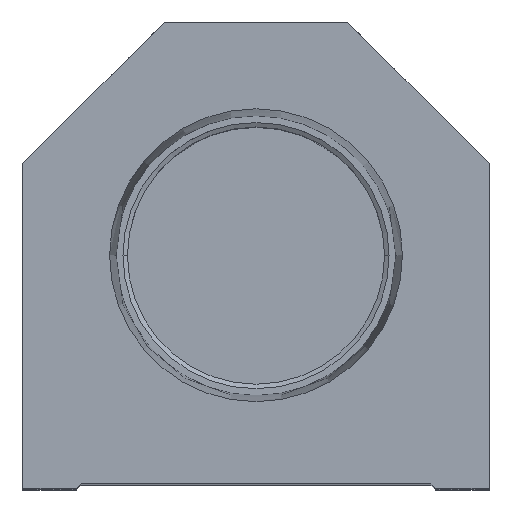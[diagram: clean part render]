
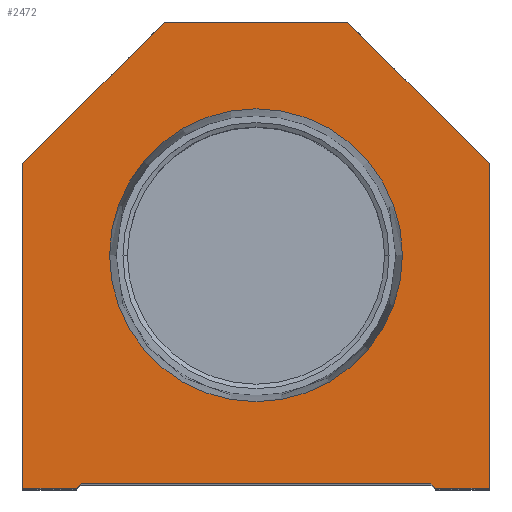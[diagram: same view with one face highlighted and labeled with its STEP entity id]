
A CAD part, top view. The second image highlights one B-rep face of the part: STEP entity #2472.
In plain terms, the highlighted planar face has unit normal (0, 0, 1).
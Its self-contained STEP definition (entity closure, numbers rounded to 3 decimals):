
#202 = FACE_OUTER_BOUND ( 'NONE', #11082, .T. ) ;
#537 = ORIENTED_EDGE ( 'NONE', *, *, #11326, .T. ) ;
#617 = ORIENTED_EDGE ( 'NONE', *, *, #7357, .T. ) ;
#771 = CARTESIAN_POINT ( 'NONE',  ( -15.947, 25.4, 0. ) ) ;
#844 = CARTESIAN_POINT ( 'NONE',  ( 10., 50.8, 0. ) ) ;
#1178 = VERTEX_POINT ( 'NONE', #1250 ) ;
#1195 = VERTEX_POINT ( 'NONE', #11446 ) ;
#1250 = CARTESIAN_POINT ( 'NONE',  ( 19.05, 0.5, 0. ) ) ;
#1750 = ORIENTED_EDGE ( 'NONE', *, *, #3516, .T. ) ;
#1765 = DIRECTION ( 'NONE',  ( 1., 0., 0. ) ) ;
#1912 = ORIENTED_EDGE ( 'NONE', *, *, #12132, .T. ) ;
#2002 = VECTOR ( 'NONE', #4067, 1000. ) ;
#2281 = CARTESIAN_POINT ( 'NONE',  ( -25.4, 0., 0. ) ) ;
#2472 = ADVANCED_FACE ( 'NONE', ( #13307, #202 ), #15591, .T. ) ;
#2619 = EDGE_CURVE ( 'NONE', #5529, #15778, #9289, .T. ) ;
#2660 = CIRCLE ( 'NONE', #11530, 15.947 ) ;
#2803 = VECTOR ( 'NONE', #8864, 1000. ) ;
#3113 = VERTEX_POINT ( 'NONE', #771 ) ;
#3267 = VECTOR ( 'NONE', #8295, 1000. ) ;
#3516 = EDGE_CURVE ( 'NONE', #3942, #8656, #10362, .T. ) ;
#3675 = LINE ( 'NONE', #6121, #13504 ) ;
#3888 = CARTESIAN_POINT ( 'NONE',  ( -19.05, 0.5, 0. ) ) ;
#3942 = VERTEX_POINT ( 'NONE', #844 ) ;
#3946 = DIRECTION ( 'NONE',  ( -1., 0., 0. ) ) ;
#4067 = DIRECTION ( 'NONE',  ( 1., 0., 0. ) ) ;
#4075 = ORIENTED_EDGE ( 'NONE', *, *, #13697, .T. ) ;
#4147 = VECTOR ( 'NONE', #11717, 1000. ) ;
#4229 = VERTEX_POINT ( 'NONE', #4802 ) ;
#4389 = CARTESIAN_POINT ( 'NONE',  ( 15.947, 25.4, 0. ) ) ;
#4426 = CARTESIAN_POINT ( 'NONE',  ( 25.4, 0., 0. ) ) ;
#4527 = LINE ( 'NONE', #16302, #8889 ) ;
#4586 = CARTESIAN_POINT ( 'NONE',  ( -19.05, 0.5, 0. ) ) ;
#4749 = EDGE_CURVE ( 'NONE', #3113, #15646, #2660, .T. ) ;
#4802 = CARTESIAN_POINT ( 'NONE',  ( 25.4, 0., 0. ) ) ;
#4911 = AXIS2_PLACEMENT_3D ( 'NONE', #5155, #7954, #4994 ) ;
#4939 = ORIENTED_EDGE ( 'NONE', *, *, #5189, .T. ) ;
#4994 = DIRECTION ( 'NONE',  ( 1., 0., 0. ) ) ;
#5141 = ORIENTED_EDGE ( 'NONE', *, *, #4749, .F. ) ;
#5155 = CARTESIAN_POINT ( 'NONE',  ( 0., 25.4, 0. ) ) ;
#5189 = EDGE_CURVE ( 'NONE', #8656, #1195, #4527, .T. ) ;
#5529 = VERTEX_POINT ( 'NONE', #15625 ) ;
#5567 = ORIENTED_EDGE ( 'NONE', *, *, #13013, .T. ) ;
#5672 = CARTESIAN_POINT ( 'NONE',  ( 0., 25.4, 0. ) ) ;
#5830 = ORIENTED_EDGE ( 'NONE', *, *, #7745, .T. ) ;
#5835 = ORIENTED_EDGE ( 'NONE', *, *, #2619, .T. ) ;
#5860 = LINE ( 'NONE', #4426, #11143 ) ;
#6047 = DIRECTION ( 'NONE',  ( 0., 1., 0. ) ) ;
#6121 = CARTESIAN_POINT ( 'NONE',  ( -19.05, 0., 0. ) ) ;
#6415 = CARTESIAN_POINT ( 'NONE',  ( 25.4, 35.4, 0. ) ) ;
#7357 = EDGE_CURVE ( 'NONE', #4229, #10702, #5860, .T. ) ;
#7555 = VECTOR ( 'NONE', #11799, 1000. ) ;
#7745 = EDGE_CURVE ( 'NONE', #10702, #3942, #8198, .T. ) ;
#7751 = CARTESIAN_POINT ( 'NONE',  ( -10., 50.8, 0. ) ) ;
#7954 = DIRECTION ( 'NONE',  ( 0., 0., 1. ) ) ;
#7968 = LINE ( 'NONE', #10149, #2002 ) ;
#8198 = LINE ( 'NONE', #13285, #4147 ) ;
#8295 = DIRECTION ( 'NONE',  ( 0.707, -0.707, 0. ) ) ;
#8428 = DIRECTION ( 'NONE',  ( -0.707, -0.707, 0. ) ) ;
#8656 = VERTEX_POINT ( 'NONE', #7751 ) ;
#8764 = CARTESIAN_POINT ( 'NONE',  ( 10., 50.8, 0. ) ) ;
#8864 = DIRECTION ( 'NONE',  ( 0., -1., 0. ) ) ;
#8889 = VECTOR ( 'NONE', #8428, 1000. ) ;
#8935 = VERTEX_POINT ( 'NONE', #13924 ) ;
#9289 = LINE ( 'NONE', #9356, #7555 ) ;
#9356 = CARTESIAN_POINT ( 'NONE',  ( -9.775, 9.775, 0. ) ) ;
#9679 = AXIS2_PLACEMENT_3D ( 'NONE', #14567, #13227, #1765 ) ;
#9727 = DIRECTION ( 'NONE',  ( 1., 0., 0. ) ) ;
#10149 = CARTESIAN_POINT ( 'NONE',  ( 19.05, 0., 0. ) ) ;
#10247 = DIRECTION ( 'NONE',  ( 1., 0., 0. ) ) ;
#10362 = LINE ( 'NONE', #8764, #14186 ) ;
#10702 = VERTEX_POINT ( 'NONE', #6415 ) ;
#10794 = DIRECTION ( 'NONE',  ( 0., 0., 1. ) ) ;
#11082 = EDGE_LOOP ( 'NONE', ( #537, #5835, #1912, #4075, #5567, #617, #5830, #1750, #4939, #12423 ) ) ;
#11143 = VECTOR ( 'NONE', #6047, 1000. ) ;
#11326 = EDGE_CURVE ( 'NONE', #14248, #5529, #3675, .T. ) ;
#11446 = CARTESIAN_POINT ( 'NONE',  ( -25.4, 35.4, 0. ) ) ;
#11530 = AXIS2_PLACEMENT_3D ( 'NONE', #5672, #10794, #14659 ) ;
#11660 = VECTOR ( 'NONE', #9727, 1000. ) ;
#11717 = DIRECTION ( 'NONE',  ( -0.707, 0.707, 0. ) ) ;
#11799 = DIRECTION ( 'NONE',  ( 0.707, 0.707, 0. ) ) ;
#11915 = ORIENTED_EDGE ( 'NONE', *, *, #13819, .F. ) ;
#12132 = EDGE_CURVE ( 'NONE', #15778, #1178, #12149, .T. ) ;
#12149 = LINE ( 'NONE', #4586, #11660 ) ;
#12423 = ORIENTED_EDGE ( 'NONE', *, *, #16476, .T. ) ;
#13013 = EDGE_CURVE ( 'NONE', #8935, #4229, #7968, .T. ) ;
#13224 = LINE ( 'NONE', #15905, #3267 ) ;
#13227 = DIRECTION ( 'NONE',  ( 0., 0., 1. ) ) ;
#13285 = CARTESIAN_POINT ( 'NONE',  ( 25.4, 35.4, 0. ) ) ;
#13307 = FACE_BOUND ( 'NONE', #13652, .T. ) ;
#13504 = VECTOR ( 'NONE', #10247, 1000. ) ;
#13590 = CARTESIAN_POINT ( 'NONE',  ( -25.4, 0., 0. ) ) ;
#13652 = EDGE_LOOP ( 'NONE', ( #11915, #5141 ) ) ;
#13697 = EDGE_CURVE ( 'NONE', #1178, #8935, #13224, .T. ) ;
#13819 = EDGE_CURVE ( 'NONE', #15646, #3113, #14549, .T. ) ;
#13924 = CARTESIAN_POINT ( 'NONE',  ( 19.55, 0., 0. ) ) ;
#14186 = VECTOR ( 'NONE', #3946, 1000. ) ;
#14248 = VERTEX_POINT ( 'NONE', #13590 ) ;
#14549 = CIRCLE ( 'NONE', #4911, 15.947 ) ;
#14567 = CARTESIAN_POINT ( 'NONE',  ( 0., 0., 0. ) ) ;
#14659 = DIRECTION ( 'NONE',  ( 1., 0., 0. ) ) ;
#15591 = PLANE ( 'NONE',  #9679 ) ;
#15625 = CARTESIAN_POINT ( 'NONE',  ( -19.55, 0., 0. ) ) ;
#15646 = VERTEX_POINT ( 'NONE', #4389 ) ;
#15778 = VERTEX_POINT ( 'NONE', #3888 ) ;
#15905 = CARTESIAN_POINT ( 'NONE',  ( 9.775, 9.775, 0. ) ) ;
#16302 = CARTESIAN_POINT ( 'NONE',  ( -25.4, 35.4, 0. ) ) ;
#16476 = EDGE_CURVE ( 'NONE', #1195, #14248, #16508, .T. ) ;
#16508 = LINE ( 'NONE', #2281, #2803 ) ;
